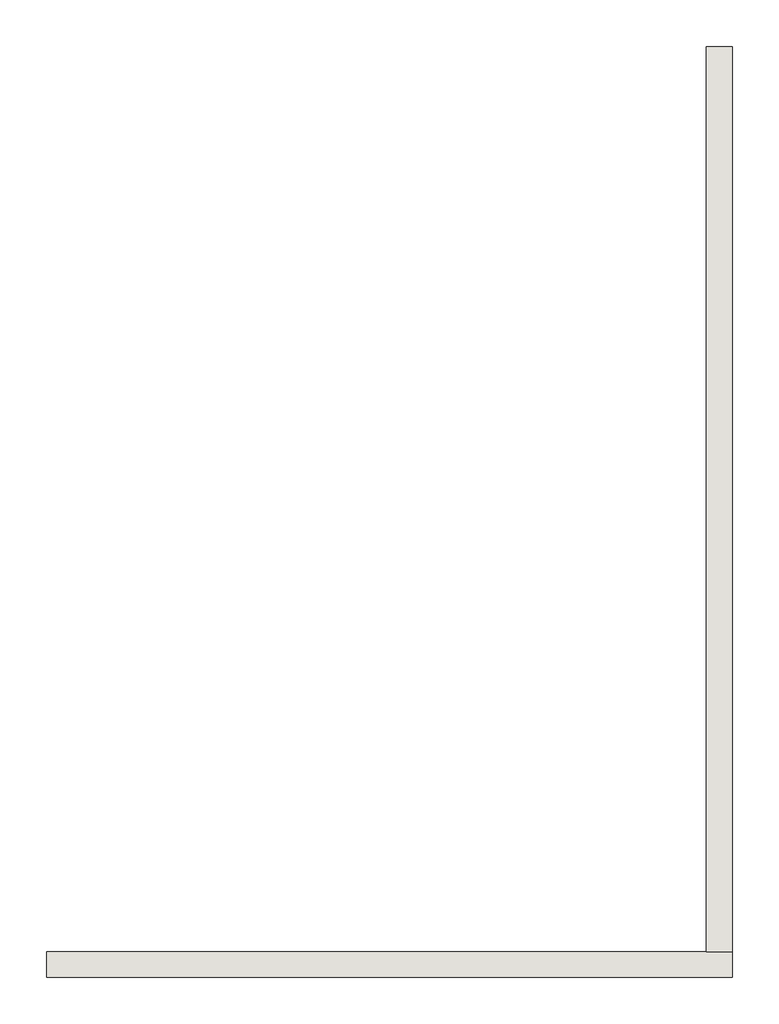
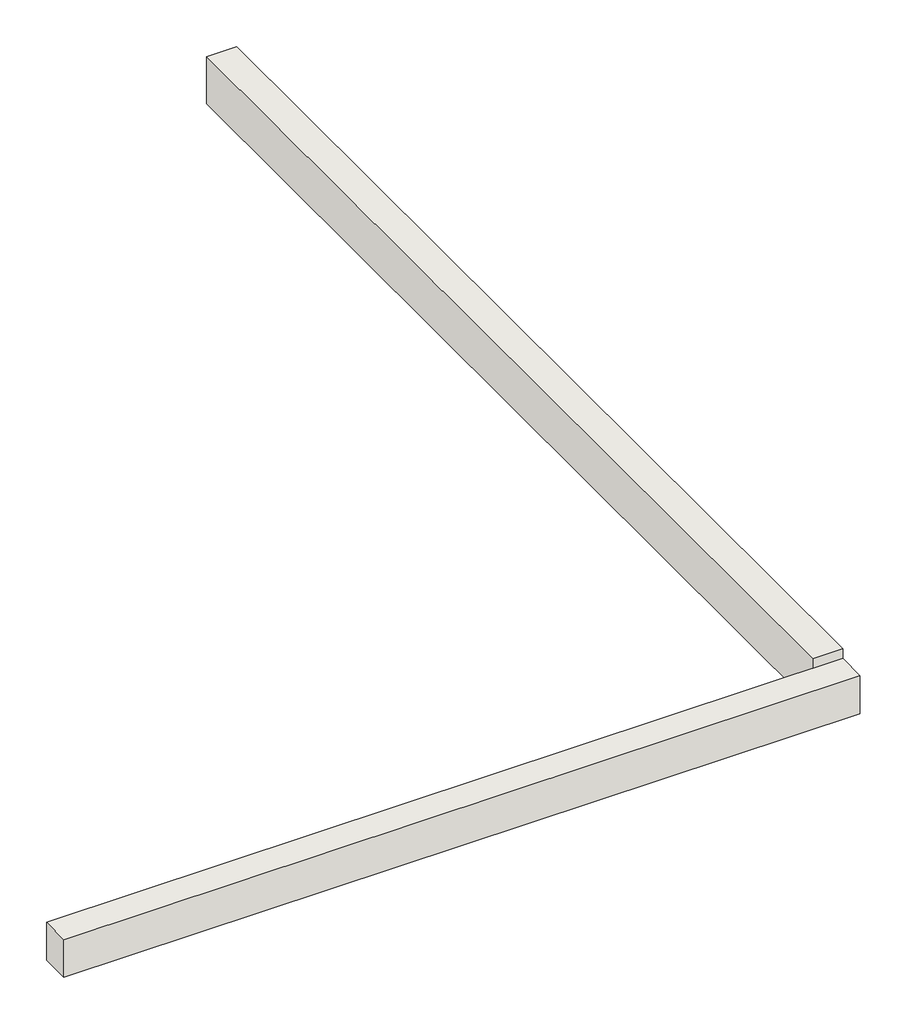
# One storey: 2 walls.
"""IFC4 building model written with IfcOpenShell, lengths in millimetres."""

from ifc_helpers import new_model, si_unit, origin, place, context, project, spatial, faceted_brep, element, save

model = new_model("IFC4")

# Units and contexts
model_context = context("Model", 3, world=origin())
ifc_project = project(units=[si_unit("LENGTHUNIT", "METRE", prefix="MILLI")], contexts=[model_context])

# Site, building, storey
site = spatial("IfcSite", under=ifc_project)
building = spatial("IfcBuilding", under=site)
storey = spatial("IfcBuildingStorey", under=building, Name="U/S of Main Floor", Elevation=-304.8)

# Walls
placement = place(None, origin())
element("IfcWall", 1, ObjectType="Planitar - Generic 3\"", at=placement, inside=storey, context=model_context, shape_type="Brep", body=[
    faceted_brep([(253.1244069, -9054.7938544, -304.8), (2270.9820668, -9054.7938544, -304.8), (2270.9820668, -9054.7938544, -203.2), (253.1244069, -9054.7938544, -203.2), (253.1244069, -8978.5938544, -304.8), (253.1244069, -8978.5938544, -203.2), (2270.9820668, -8978.5938544, -203.2), (2270.9820668, -8978.5938544, -304.8), (2194.7820668, -8978.5938544, -304.8)], [[[0, 1, 2, 3]], [[4, 5, 6, 7, 8]], [[1, 0, 4, 8, 7]], [[3, 2, 6, 5]], [[0, 3, 5, 4]], [[2, 1, 7, 6]]]),
])
element("IfcWall", 2, ObjectType="Planitar - Generic 3\"", at=placement, inside=storey, context=model_context, shape_type="Brep", body=[
    faceted_brep([(2270.9820668, -8978.5938544, -304.8), (2270.9820668, -6317.9438544, -304.8), (2270.9820668, -6317.9438544, -177.8), (2270.9820668, -8978.5938544, -177.8), (2270.9820668, -8978.5938544, -203.2), (2194.7820668, -8978.5938544, -304.8), (2194.7820668, -8978.5938544, -177.8), (2194.7820668, -6317.9438544, -177.8), (2194.7820668, -6317.9438544, -304.8)], [[[0, 1, 2, 3, 4]], [[5, 6, 7, 8]], [[1, 0, 5, 8]], [[3, 2, 7, 6]], [[0, 4, 3, 6, 5]], [[2, 1, 8, 7]]]),
])

save(model, "model.ifc")
